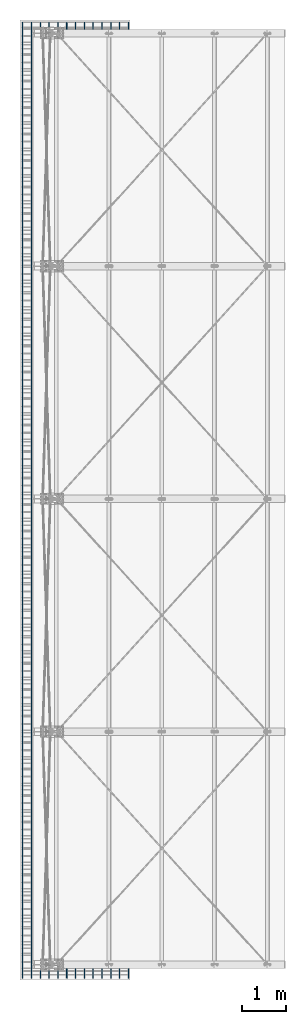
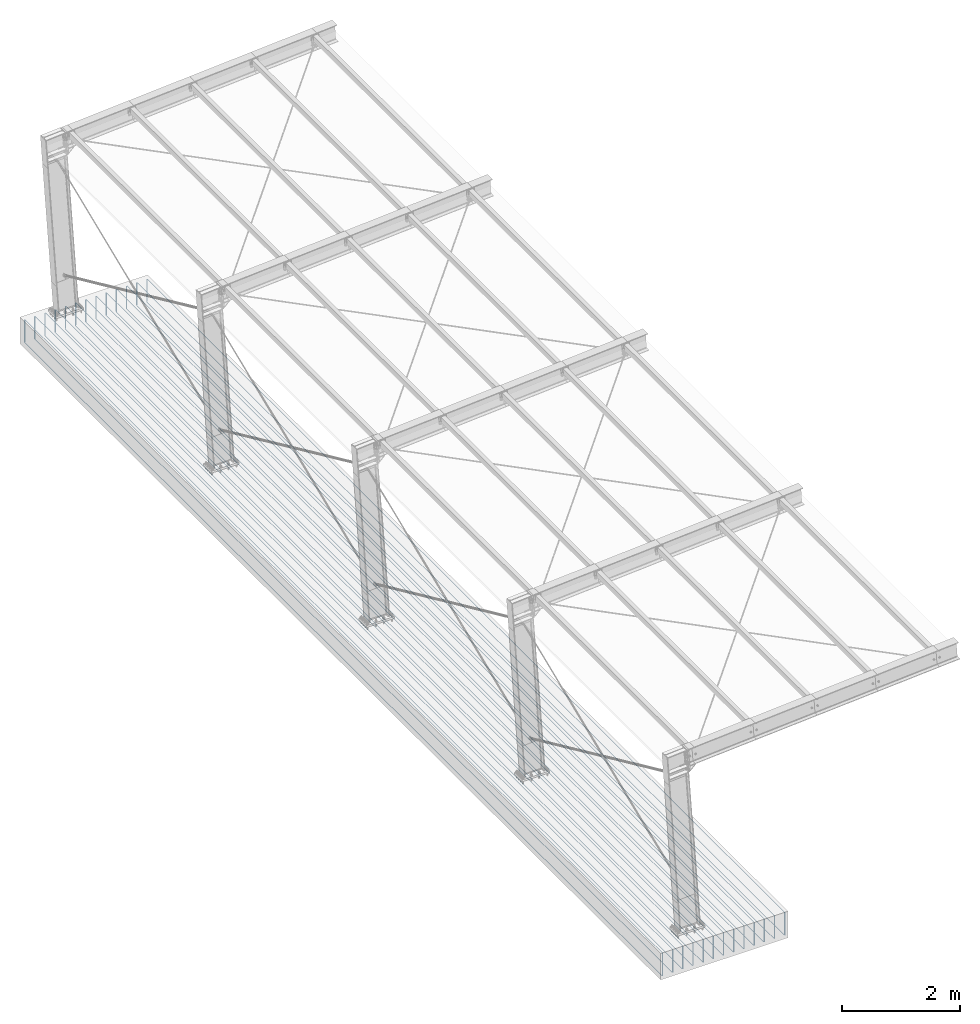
# One storey, part 9 of 72: 1 reinforcing bar.
"""IFC4 building model written with IfcOpenShell, lengths in metres."""

from ifc_helpers import new_model, entity, si_unit, origin_with_axes, place, context, project, spatial, source, transform, mapped, element, save


model = new_model("IFC4")

# Units and contexts
model_context = context("Model", 3, precision=1e-05, world=origin_with_axes())
ifc_project = project(units=[si_unit("LENGTHUNIT", "METRE"), si_unit("AREAUNIT", "SQUARE_METRE"), si_unit("VOLUMEUNIT", "CUBIC_METRE"), si_unit("MASSUNIT", "GRAM", prefix="KILO"), si_unit("TIMEUNIT", "SECOND"), si_unit("PLANEANGLEUNIT", "RADIAN"), si_unit("SOLIDANGLEUNIT", "STERADIAN"), si_unit("THERMODYNAMICTEMPERATUREUNIT", "DEGREE_CELSIUS")], contexts=[model_context])

# Site, building, storey
placement_1 = place(None, origin_with_axes())
site = spatial("IfcSite", under=ifc_project, at=placement_1, Name="Italia", CompositionType="ELEMENT")
building = spatial("IfcBuilding", under=site, at=placement_1, Name="Pensilina", CompositionType="ELEMENT")
storey = spatial("IfcBuildingStorey", under=building, at=placement_1, Name="Storey 0", CompositionType="ELEMENT", Elevation=0.0)

# Reinforcing bar
shared_shape = source(origin_with_axes(), model_context, "Body", "AdvancedSweptSolid", [
    entity("IfcSweptDiskSolid", entity("IfcIndexedPolyCurve", entity("IfcCartesianPointList3D", [[0.266, -0.308, -0.508], [0.266, -0.308, -0.052], [0.266, -0.307239, -0.0481732], [0.266, -0.305071, -0.0449289], [0.266, -0.301827, -0.0427612], [0.266, -0.298, -0.042], [0.266, 21.356, -0.042], [0.266, 21.3598, -0.0427612], [0.266, 21.3631, -0.0449289], [0.266, 21.3652, -0.0481732], [0.266, 21.366, -0.052], [0.266, 21.366, -0.508]]), [entity("IfcLineIndex", [1, 2]), entity("IfcLineIndex", [2, 3]), entity("IfcLineIndex", [3, 4]), entity("IfcLineIndex", [4, 5]), entity("IfcLineIndex", [5, 6]), entity("IfcLineIndex", [6, 7]), entity("IfcLineIndex", [7, 8]), entity("IfcLineIndex", [8, 9]), entity("IfcLineIndex", [9, 10]), entity("IfcLineIndex", [10, 11]), entity("IfcLineIndex", [11, 12])], False), 0.006),
])
placement_2 = place(placement_1, origin_with_axes())
reinforcing_bar_placement = place(placement_2, origin_with_axes())
element("IfcReinforcingBar", 1, at=reinforcing_bar_placement, inside=storey, BarLength=22.5972, CrossSectionArea=0.0001131, NominalDiameter=0.012, context=model_context, shape_type="MappedRepresentation", body=[
    mapped(shared_shape, transform((2.4, 0.0, 0.0), x_axis=(1.0, 0.0, 0.0), y_axis=(0.0, 1.0, 0.0), z_axis=(0.0, 0.0, 1.0), scale=1.0)),
    mapped(shared_shape, transform((2.2, 0.0, 0.0), x_axis=(1.0, 0.0, 0.0), y_axis=(0.0, 1.0, 0.0), z_axis=(0.0, 0.0, 1.0), scale=1.0)),
    mapped(shared_shape, transform((1.4, 0.0, 0.0), x_axis=(1.0, 0.0, 0.0), y_axis=(0.0, 1.0, 0.0), z_axis=(0.0, 0.0, 1.0), scale=1.0)),
    mapped(shared_shape, transform((1.8, 0.0, 0.0), x_axis=(1.0, 0.0, 0.0), y_axis=(0.0, 1.0, 0.0), z_axis=(0.0, 0.0, 1.0), scale=1.0)),
    mapped(shared_shape, transform((1.6, 0.0, 0.0), x_axis=(1.0, 0.0, 0.0), y_axis=(0.0, 1.0, 0.0), z_axis=(0.0, 0.0, 1.0), scale=1.0)),
    mapped(shared_shape, transform((2.0, 0.0, 0.0), x_axis=(1.0, 0.0, 0.0), y_axis=(0.0, 1.0, 0.0), z_axis=(0.0, 0.0, 1.0), scale=1.0)),
    mapped(shared_shape, transform((1.2, 0.0, 0.0), x_axis=(1.0, 0.0, 0.0), y_axis=(0.0, 1.0, 0.0), z_axis=(0.0, 0.0, 1.0), scale=1.0)),
    mapped(shared_shape, transform((1.0, 0.0, 0.0), x_axis=(1.0, 0.0, 0.0), y_axis=(0.0, 1.0, 0.0), z_axis=(0.0, 0.0, 1.0), scale=1.0)),
    mapped(shared_shape, transform((0.2, 0.0, 0.0), x_axis=(1.0, 0.0, 0.0), y_axis=(0.0, 1.0, 0.0), z_axis=(0.0, 0.0, 1.0), scale=1.0)),
    mapped(shared_shape, transform((0.6, 0.0, 0.0), x_axis=(1.0, 0.0, 0.0), y_axis=(0.0, 1.0, 0.0), z_axis=(0.0, 0.0, 1.0), scale=1.0)),
    mapped(shared_shape, transform((0.4, 0.0, 0.0), x_axis=(1.0, 0.0, 0.0), y_axis=(0.0, 1.0, 0.0), z_axis=(0.0, 0.0, 1.0), scale=1.0)),
    mapped(shared_shape, transform((0.8, 0.0, 0.0), x_axis=(1.0, 0.0, 0.0), y_axis=(0.0, 1.0, 0.0), z_axis=(0.0, 0.0, 1.0), scale=1.0)),
    mapped(shared_shape, transform((0.0, 0.0, 0.0), x_axis=(1.0, 0.0, 0.0), y_axis=(0.0, 1.0, 0.0), z_axis=(0.0, 0.0, 1.0), scale=1.0)),
    mapped(shared_shape, transform((2.92, 0.0, -0.55), x_axis=(-1.0, 0.0, 0.0), y_axis=(0.0, 1.0, 0.0), z_axis=(0.0, 0.0, -1.0), scale=1.0)),
    mapped(shared_shape, transform((2.12, 0.0, -0.55), x_axis=(-1.0, 0.0, 0.0), y_axis=(0.0, 1.0, 0.0), z_axis=(0.0, 0.0, -1.0), scale=1.0)),
    mapped(shared_shape, transform((2.52, 0.0, -0.55), x_axis=(-1.0, 0.0, 0.0), y_axis=(0.0, 1.0, 0.0), z_axis=(0.0, 0.0, -1.0), scale=1.0)),
    mapped(shared_shape, transform((2.32, 0.0, -0.55), x_axis=(-1.0, 0.0, 0.0), y_axis=(0.0, 1.0, 0.0), z_axis=(0.0, 0.0, -1.0), scale=1.0)),
    mapped(shared_shape, transform((2.72, 0.0, -0.55), x_axis=(-1.0, 0.0, 0.0), y_axis=(0.0, 1.0, 0.0), z_axis=(0.0, 0.0, -1.0), scale=1.0)),
    mapped(shared_shape, transform((1.92, 0.0, -0.55), x_axis=(-1.0, 0.0, 0.0), y_axis=(0.0, 1.0, 0.0), z_axis=(0.0, 0.0, -1.0), scale=1.0)),
    mapped(shared_shape, transform((1.72, 0.0, -0.55), x_axis=(-1.0, 0.0, 0.0), y_axis=(0.0, 1.0, 0.0), z_axis=(0.0, 0.0, -1.0), scale=1.0)),
    mapped(shared_shape, transform((0.920001, 0.0, -0.55), x_axis=(-1.0, 0.0, 0.0), y_axis=(0.0, 1.0, 0.0), z_axis=(0.0, 0.0, -1.0), scale=1.0)),
    mapped(shared_shape, transform((1.32, 0.0, -0.55), x_axis=(-1.0, 0.0, 0.0), y_axis=(0.0, 1.0, 0.0), z_axis=(0.0, 0.0, -1.0), scale=1.0)),
    mapped(shared_shape, transform((1.12, 0.0, -0.55), x_axis=(-1.0, 0.0, 0.0), y_axis=(0.0, 1.0, 0.0), z_axis=(0.0, 0.0, -1.0), scale=1.0)),
    mapped(shared_shape, transform((1.52, 0.0, -0.55), x_axis=(-1.0, 0.0, 0.0), y_axis=(0.0, 1.0, 0.0), z_axis=(0.0, 0.0, -1.0), scale=1.0)),
    mapped(shared_shape, transform((0.720001, 0.0, -0.55), x_axis=(-1.0, 0.0, 0.0), y_axis=(0.0, 1.0, 0.0), z_axis=(0.0, 0.0, -1.0), scale=1.0)),
    mapped(shared_shape, transform((0.520001, 0.0, -0.55), x_axis=(-1.0, 0.0, 0.0), y_axis=(0.0, 1.0, 0.0), z_axis=(0.0, 0.0, -1.0), scale=1.0)),
])

save(model, "model.ifc")
